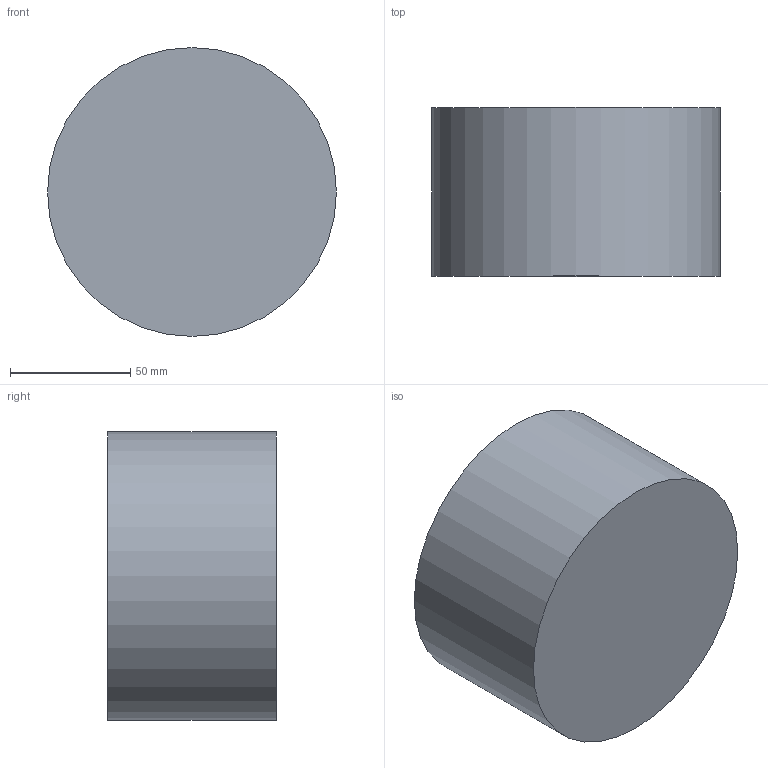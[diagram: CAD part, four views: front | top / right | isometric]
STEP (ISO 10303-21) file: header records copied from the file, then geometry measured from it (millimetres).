
FILE_DESCRIPTION(('Open CASCADE Model'),'2;1');
FILE_NAME('Open CASCADE Shape Model','2026-10-10T15:34:57',('Author'),( 'Open CASCADE'),'Open CASCADE STEP processor 7.9','Open CASCADE 7.9' ,'Unknown');
FILE_SCHEMA(('AUTOMOTIVE_DESIGN { 1 0 10303 214 1 1 1 1 }'));
Length unit declared in the file: millimetre
Products named in the file (1): Open CASCADE STEP translator 7.9 8
Bounding box: 120 x 70 x 120 mm (x, y, z)
Volume: 791681.3 mm3; surface area: 49008.8 mm2
Topology: 1 solids, 1 shells, 3 faces, 3 edges, 2 vertices
Faces by surface type: plane 2, cylinder 1
Full cylindrical faces by diameter (mm): 120 x1
Entity records: 108 total; most frequent: DIRECTION 19, CARTESIAN_POINT 15, AXIS2_PLACEMENT_3D 6, ORIENTED_EDGE 6, PCURVE 6, DEFINITIONAL_REPRESENTATION 6, LINE 5, VECTOR 5
